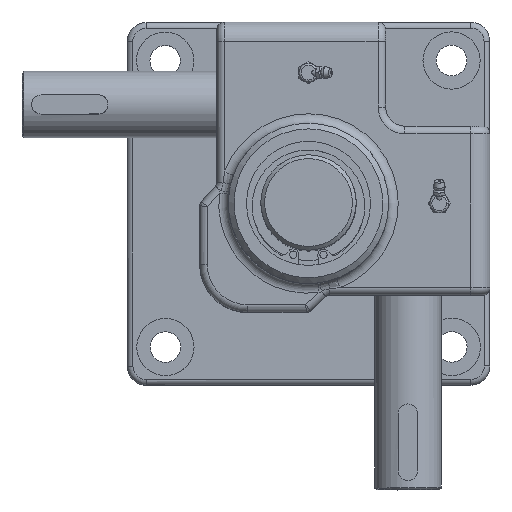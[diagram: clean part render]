
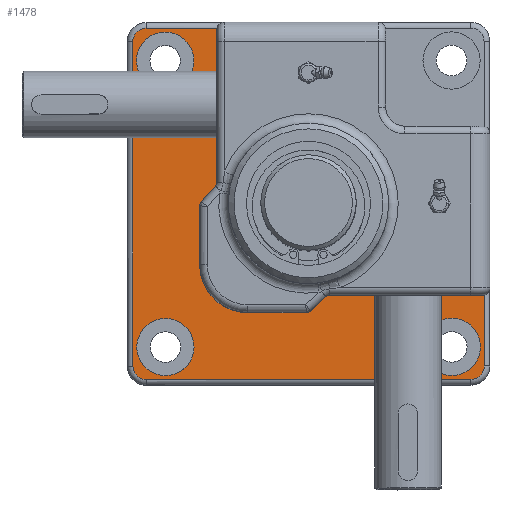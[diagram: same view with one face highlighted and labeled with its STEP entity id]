
A CAD part, top view. The second image highlights one B-rep face of the part: STEP entity #1478.
In plain terms, the highlighted planar face has unit normal (0, 0, 1).
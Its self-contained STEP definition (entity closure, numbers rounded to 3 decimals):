
#1478=ADVANCED_FACE('',(#4424,#4425,#4426,#4427),#4428,.T.);
#4424=FACE_OUTER_BOUND('',#9744,.T.);
#4425=FACE_BOUND('',#9745,.T.);
#4426=FACE_BOUND('',#9746,.T.);
#4427=FACE_BOUND('',#9747,.T.);
#4428=PLANE('',#9748);
#9744=EDGE_LOOP('',(#17194,#17195,#17196,#17197,#17198,#17199,#17200,#17201,#17202,#17203,#17204,#17205,#17206,#17207,#17208,#17209,#17210,#17211,#17212,#17213));
#9745=EDGE_LOOP('',(#17214));
#9746=EDGE_LOOP('',(#17215));
#9747=EDGE_LOOP('',(#17216));
#9748=AXIS2_PLACEMENT_3D('',#17217,#17218,#17219);
#17194=ORIENTED_EDGE('',*,*,#35350,.F.);
#17195=ORIENTED_EDGE('',*,*,#35351,.T.);
#17196=ORIENTED_EDGE('',*,*,#35352,.T.);
#17197=ORIENTED_EDGE('',*,*,#35353,.F.);
#17198=ORIENTED_EDGE('',*,*,#35354,.F.);
#17199=ORIENTED_EDGE('',*,*,#35355,.F.);
#17200=ORIENTED_EDGE('',*,*,#35356,.F.);
#17201=ORIENTED_EDGE('',*,*,#35357,.F.);
#17202=ORIENTED_EDGE('',*,*,#35358,.F.);
#17203=ORIENTED_EDGE('',*,*,#35359,.T.);
#17204=ORIENTED_EDGE('',*,*,#35205,.T.);
#17205=ORIENTED_EDGE('',*,*,#35360,.F.);
#17206=ORIENTED_EDGE('',*,*,#35361,.T.);
#17207=ORIENTED_EDGE('',*,*,#35362,.T.);
#17208=ORIENTED_EDGE('',*,*,#35363,.T.);
#17209=ORIENTED_EDGE('',*,*,#35364,.T.);
#17210=ORIENTED_EDGE('',*,*,#35365,.T.);
#17211=ORIENTED_EDGE('',*,*,#35366,.T.);
#17212=ORIENTED_EDGE('',*,*,#35367,.T.);
#17213=ORIENTED_EDGE('',*,*,#35368,.F.);
#17214=ORIENTED_EDGE('',*,*,#35369,.F.);
#17215=ORIENTED_EDGE('',*,*,#35370,.F.);
#17216=ORIENTED_EDGE('',*,*,#35371,.F.);
#17217=CARTESIAN_POINT('',(0.0,0.,-45.0));
#17218=DIRECTION('',(0.,0.,1.0));
#17219=DIRECTION('',(1.0,0.,0.));
#35205=EDGE_CURVE('',#42048,#42049,#42050,.T.);
#35350=EDGE_CURVE('',#42323,#42324,#42325,.T.);
#35351=EDGE_CURVE('',#42323,#42326,#42327,.T.);
#35352=EDGE_CURVE('',#42326,#42328,#42329,.T.);
#35353=EDGE_CURVE('',#42330,#42328,#42331,.T.);
#35354=EDGE_CURVE('',#42332,#42330,#42333,.T.);
#35355=EDGE_CURVE('',#42334,#42332,#42335,.T.);
#35356=EDGE_CURVE('',#42336,#42334,#42337,.T.);
#35357=EDGE_CURVE('',#42338,#42336,#42339,.T.);
#35358=EDGE_CURVE('',#42340,#42338,#42341,.T.);
#35359=EDGE_CURVE('',#42340,#42048,#42342,.T.);
#35360=EDGE_CURVE('',#42343,#42049,#42344,.T.);
#35361=EDGE_CURVE('',#42343,#42345,#42346,.T.);
#35362=EDGE_CURVE('',#42345,#42347,#42348,.T.);
#35363=EDGE_CURVE('',#42347,#42349,#42350,.T.);
#35364=EDGE_CURVE('',#42349,#42351,#42352,.T.);
#35365=EDGE_CURVE('',#42351,#42353,#42354,.T.);
#35366=EDGE_CURVE('',#42353,#42355,#42356,.T.);
#35367=EDGE_CURVE('',#42355,#42357,#42358,.T.);
#35368=EDGE_CURVE('',#42324,#42357,#42359,.T.);
#35369=EDGE_CURVE('',#42360,#42360,#42361,.T.);
#35370=EDGE_CURVE('',#42362,#42362,#42363,.T.);
#35371=EDGE_CURVE('',#42364,#42364,#42365,.T.);
#42048=VERTEX_POINT('',#53960);
#42049=VERTEX_POINT('',#53961);
#42050=LINE('',#53962,#53963);
#42323=VERTEX_POINT('',#54434);
#42324=VERTEX_POINT('',#54435);
#42325=LINE('',#54436,#54437);
#42326=VERTEX_POINT('',#54438);
#42327=CIRCLE('',#54439,3.0);
#42328=VERTEX_POINT('',#54440);
#42329=LINE('',#54441,#54442);
#42330=VERTEX_POINT('',#54443);
#42331=CIRCLE('',#54444,3.0);
#42332=VERTEX_POINT('',#54445);
#42333=LINE('',#54446,#54447);
#42334=VERTEX_POINT('',#54448);
#42335=CIRCLE('',#54449,25.0);
#42336=VERTEX_POINT('',#54450);
#42337=LINE('',#54451,#54452);
#42338=VERTEX_POINT('',#54453);
#42339=CIRCLE('',#54454,3.0);
#42340=VERTEX_POINT('',#54455);
#42341=LINE('',#54456,#54457);
#42342=CIRCLE('',#54458,3.0);
#42343=VERTEX_POINT('',#54459);
#42344=CIRCLE('',#54460,4.0);
#42345=VERTEX_POINT('',#54461);
#42346=LINE('',#54462,#54463);
#42347=VERTEX_POINT('',#54464);
#42348=CIRCLE('',#54465,7.0);
#42349=VERTEX_POINT('',#54466);
#42350=LINE('',#54467,#54468);
#42351=VERTEX_POINT('',#54469);
#42352=CIRCLE('',#54470,7.0);
#42353=VERTEX_POINT('',#54471);
#42354=LINE('',#54472,#54473);
#42355=VERTEX_POINT('',#54474);
#42356=CIRCLE('',#54475,7.0);
#42357=VERTEX_POINT('',#54476);
#42358=LINE('',#54477,#54478);
#42359=CIRCLE('',#54479,4.0);
#42360=VERTEX_POINT('',#54480);
#42361=CIRCLE('',#54481,15.0);
#42362=VERTEX_POINT('',#54482);
#42363=CIRCLE('',#54483,15.0);
#42364=VERTEX_POINT('',#54484);
#42365=CIRCLE('',#54485,15.0);
#53960=CARTESIAN_POINT('',(-48.0,11.147,-45.0));
#53961=CARTESIAN_POINT('',(-48.0,91.0,-45.0));
#53962=CARTESIAN_POINT('',(-48.0,51.074,-45.0));
#53963=VECTOR('',#70216,1.0);
#54434=CARTESIAN_POINT('',(11.147,-48.0,-45.0));
#54435=CARTESIAN_POINT('',(91.0,-48.0,-45.0));
#54436=CARTESIAN_POINT('',(51.074,-48.0,-45.0));
#54437=VECTOR('',#70501,1.0);
#54438=CARTESIAN_POINT('',(9.14,-48.771,-45.0));
#54439=AXIS2_PLACEMENT_3D('',#70502,#70503,#70504);
#54440=CARTESIAN_POINT('',(0.856,-56.229,-45.0));
#54441=CARTESIAN_POINT('',(4.998,-52.5,-45.0));
#54442=VECTOR('',#70505,1.0);
#54443=CARTESIAN_POINT('',(-1.152,-57.0,-45.0));
#54444=AXIS2_PLACEMENT_3D('',#70506,#70507,#70508);
#54445=CARTESIAN_POINT('',(-32.0,-57.0,-45.0));
#54446=CARTESIAN_POINT('',(-16.576,-57.0,-45.0));
#54447=VECTOR('',#70509,1.0);
#54448=CARTESIAN_POINT('',(-57.0,-32.0,-45.0));
#54449=AXIS2_PLACEMENT_3D('',#70510,#70511,#70512);
#54450=CARTESIAN_POINT('',(-57.0,-1.152,-45.0));
#54451=CARTESIAN_POINT('',(-57.0,-16.576,-45.0));
#54452=VECTOR('',#70513,1.0);
#54453=CARTESIAN_POINT('',(-56.229,0.856,-45.0));
#54454=AXIS2_PLACEMENT_3D('',#70514,#70515,#70516);
#54455=CARTESIAN_POINT('',(-48.771,9.14,-45.0));
#54456=CARTESIAN_POINT('',(-52.5,4.998,-45.0));
#54457=VECTOR('',#70517,1.0);
#54458=AXIS2_PLACEMENT_3D('',#70518,#70519,#70520);
#54459=CARTESIAN_POINT('',(-47.873,92.0,-45.0));
#54460=AXIS2_PLACEMENT_3D('',#70521,#70522,#70523);
#54461=CARTESIAN_POINT('',(-85.0,92.0,-45.0));
#54462=CARTESIAN_POINT('',(-66.436,92.0,-45.0));
#54463=VECTOR('',#70524,1.0);
#54464=CARTESIAN_POINT('',(-92.0,85.,-45.0));
#54465=AXIS2_PLACEMENT_3D('',#70525,#70526,#70527);
#54466=CARTESIAN_POINT('',(-92.0,-85.0,-45.0));
#54467=CARTESIAN_POINT('',(-92.0,0.,-45.0));
#54468=VECTOR('',#70528,1.0);
#54469=CARTESIAN_POINT('',(-85.,-92.0,-45.0));
#54470=AXIS2_PLACEMENT_3D('',#70529,#70530,#70531);
#54471=CARTESIAN_POINT('',(85.0,-92.0,-45.0));
#54472=CARTESIAN_POINT('',(0.,-92.0,-45.0));
#54473=VECTOR('',#70532,1.0);
#54474=CARTESIAN_POINT('',(92.0,-85.,-45.0));
#54475=AXIS2_PLACEMENT_3D('',#70533,#70534,#70535);
#54476=CARTESIAN_POINT('',(92.0,-47.873,-45.0));
#54477=CARTESIAN_POINT('',(92.0,0.,-45.0));
#54478=VECTOR('',#70536,1.0);
#54479=AXIS2_PLACEMENT_3D('',#70537,#70538,#70539);
#54480=CARTESIAN_POINT('',(90.0,-75.0,-45.0));
#54481=AXIS2_PLACEMENT_3D('',#70540,#70541,#70542);
#54482=CARTESIAN_POINT('',(-60.0,-75.0,-45.0));
#54483=AXIS2_PLACEMENT_3D('',#70543,#70544,#70545);
#54484=CARTESIAN_POINT('',(-60.0,75.0,-45.0));
#54485=AXIS2_PLACEMENT_3D('',#70546,#70547,#70548);
#70216=DIRECTION('',(0.0,1.0,0.));
#70501=DIRECTION('',(1.0,0.0,0.));
#70502=CARTESIAN_POINT('',(11.147,-51.0,-45.0));
#70503=DIRECTION('',(0.,0.,1.0));
#70504=DIRECTION('',(1.0,0.,0.));
#70505=DIRECTION('',(-0.743,-0.669,0.0));
#70506=CARTESIAN_POINT('',(-1.152,-54.0,-45.0));
#70507=DIRECTION('',(0.,0.,1.0));
#70508=DIRECTION('',(1.0,0.,0.));
#70509=DIRECTION('',(1.0,0.0,0.0));
#70510=CARTESIAN_POINT('',(-32.0,-32.0,-45.0));
#70511=DIRECTION('',(0.,0.,1.0));
#70512=DIRECTION('',(1.0,0.,0.));
#70513=DIRECTION('',(0.0,-1.0,0.0));
#70514=CARTESIAN_POINT('',(-54.0,-1.152,-45.0));
#70515=DIRECTION('',(0.,0.,1.0));
#70516=DIRECTION('',(1.0,0.,0.));
#70517=DIRECTION('',(-0.669,-0.743,0.0));
#70518=CARTESIAN_POINT('',(-51.0,11.147,-45.0));
#70519=DIRECTION('',(0.,0.,1.0));
#70520=DIRECTION('',(1.0,0.,0.));
#70521=CARTESIAN_POINT('',(-44.0,91.0,-45.0));
#70522=DIRECTION('',(0.,0.,1.0));
#70523=DIRECTION('',(1.0,0.,0.));
#70524=DIRECTION('',(-1.0,0.0,0.0));
#70525=CARTESIAN_POINT('',(-85.0,85.0,-45.0));
#70526=DIRECTION('',(0.0,0.0,1.0));
#70527=DIRECTION('',(1.0,0.0,0.0));
#70528=DIRECTION('',(0.0,-1.0,0.));
#70529=CARTESIAN_POINT('',(-85.0,-85.0,-45.0));
#70530=DIRECTION('',(0.0,0.0,1.0));
#70531=DIRECTION('',(1.0,0.0,0.0));
#70532=DIRECTION('',(1.0,0.0,0.));
#70533=CARTESIAN_POINT('',(85.0,-85.0,-45.0));
#70534=DIRECTION('',(0.0,0.0,1.0));
#70535=DIRECTION('',(1.0,0.0,0.0));
#70536=DIRECTION('',(0.0,1.0,0.));
#70537=CARTESIAN_POINT('',(91.0,-44.0,-45.0));
#70538=DIRECTION('',(0.,0.0,1.0));
#70539=DIRECTION('',(1.0,0.0,0.));
#70540=CARTESIAN_POINT('',(75.0,-75.0,-45.0));
#70541=DIRECTION('',(0.,0.,1.0));
#70542=DIRECTION('',(1.0,0.,0.));
#70543=CARTESIAN_POINT('',(-75.0,-75.0,-45.0));
#70544=DIRECTION('',(0.,0.,1.0));
#70545=DIRECTION('',(1.0,0.,0.));
#70546=CARTESIAN_POINT('',(-75.0,75.0,-45.0));
#70547=DIRECTION('',(0.,0.,1.0));
#70548=DIRECTION('',(1.0,0.,0.));
